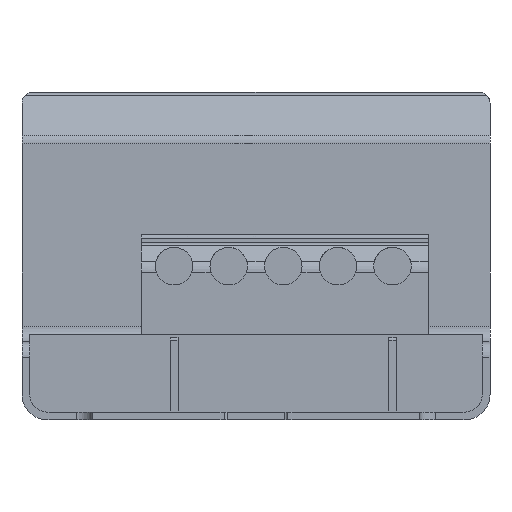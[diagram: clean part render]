
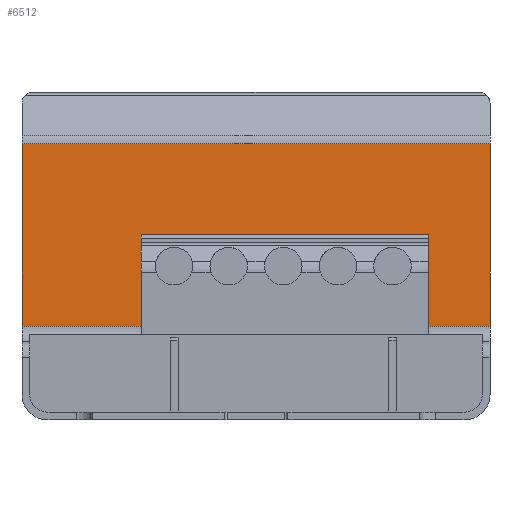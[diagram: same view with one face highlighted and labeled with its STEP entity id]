
A CAD part, front view. The second image highlights one B-rep face of the part: STEP entity #6512.
In plain terms, the highlighted planar face has unit normal (0, -1, 0).
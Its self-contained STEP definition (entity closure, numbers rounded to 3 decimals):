
#1712=DIRECTION('',(1.,0.,0.));
#1713=VECTOR('',#1712,30.);
#1714=CARTESIAN_POINT('',(-15.,-110.7,6.));
#1715=LINE('',#1714,#1713);
#2529=DIRECTION('',(0.,0.,1.));
#2530=VECTOR('',#2529,11.71);
#2531=CARTESIAN_POINT('',(-15.,-110.7,6.));
#2532=LINE('',#2531,#2530);
#2536=DIRECTION('',(1.,0.,0.));
#2537=VECTOR('',#2536,30.);
#2538=CARTESIAN_POINT('',(-15.,-110.7,17.71));
#2539=LINE('',#2538,#2537);
#2543=DIRECTION('',(0.,0.,-1.));
#2544=VECTOR('',#2543,11.71);
#2545=CARTESIAN_POINT('',(15.,-110.7,17.71));
#2546=LINE('',#2545,#2544);
#4699=CARTESIAN_POINT('',(-15.,-110.7,17.71));
#4700=CARTESIAN_POINT('',(15.,-110.7,17.71));
#4701=VERTEX_POINT('',#4699);
#4702=VERTEX_POINT('',#4700);
#4799=CARTESIAN_POINT('',(15.,-110.7,6.));
#4800=VERTEX_POINT('',#4799);
#4801=CARTESIAN_POINT('',(-15.,-110.7,6.));
#4802=VERTEX_POINT('',#4801);
#6500=CARTESIAN_POINT('',(-15.,-110.7,5.45));
#6501=DIRECTION('',(0.,-1.,0.));
#6502=DIRECTION('',(0.,0.,1.));
#6503=AXIS2_PLACEMENT_3D('',#6500,#6501,#6502);
#6504=PLANE('',#6503);
#6505=ORIENTED_EDGE('',*,*,#5934,.F.);
#6506=ORIENTED_EDGE('',*,*,#4860,.T.);
#6508=ORIENTED_EDGE('',*,*,#6507,.T.);
#6509=ORIENTED_EDGE('',*,*,#5040,.T.);
#6510=EDGE_LOOP('',(#6505,#6506,#6508,#6509));
#6511=FACE_OUTER_BOUND('',#6510,.F.);
#4860=EDGE_CURVE('',#4802,#4701,#2532,.T.);
#5040=EDGE_CURVE('',#4702,#4800,#2546,.T.);
#5934=EDGE_CURVE('',#4802,#4800,#1715,.T.);
#6507=EDGE_CURVE('',#4701,#4702,#2539,.T.);
#6512=ADVANCED_FACE('',(#6511),#6504,.T.);
